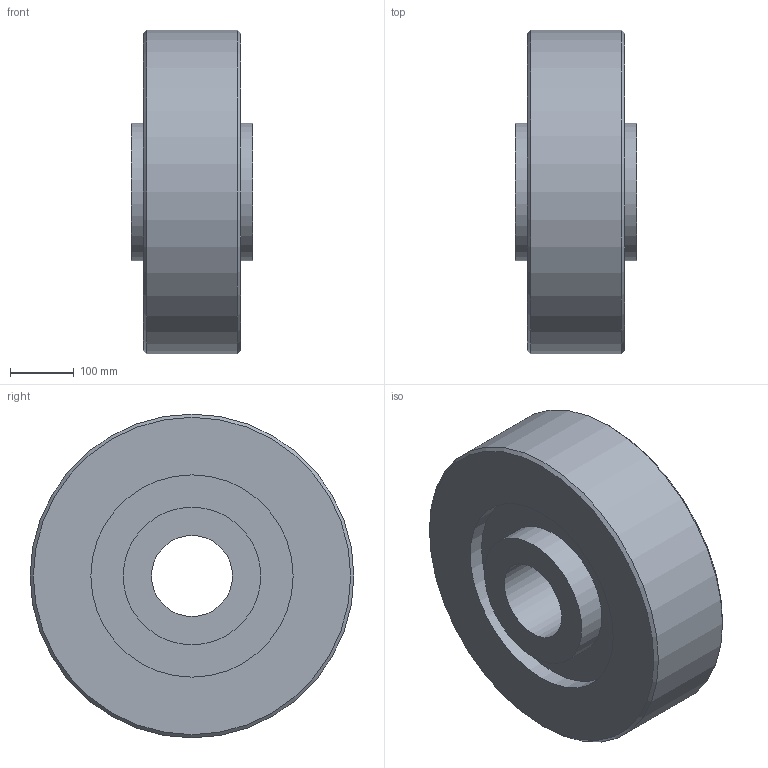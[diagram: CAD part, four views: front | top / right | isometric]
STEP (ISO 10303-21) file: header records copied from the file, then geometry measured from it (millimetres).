
FILE_DESCRIPTION((''),'1');
FILE_NAME('H:/図庫/国内ﾕﾆｯﾄ/ｶﾀﾛｸﾞ/ｸﾘｰﾌﾟﾌﾘｰ/ホームページ用ＣＡＤ図面/3D/update用', '2017-07-12T08:03:37',(''), (''), 'KCM Version 1.1.1442.0', 'Kubotek KeyCreator', '');
FILE_SCHEMA(('AUTOMOTIVE_DESIGN'));
Length unit declared in the file: inch
Bounding box: 190.5 x 508 x 508 mm (x, y, z)
Surface area: 800659.8 mm2 (no closed solid volume)
Topology: 0 solids, 14 shells, 14 faces, 36 edges, 28 vertices
Faces by surface type: cylinder 6, plane 6, cone 2
Full cylindrical faces by diameter (mm): 127 x1, 215.9 x2, 317.5 x2, 508 x1
Entity records: 482 total; most frequent: DIRECTION 94, CARTESIAN_POINT 79, ORIENTED_EDGE 44, AXIS2_PLACEMENT_3D 43, EDGE_CURVE 36, VERTEX_POINT 28, CIRCLE 28, EDGE_LOOP 20
